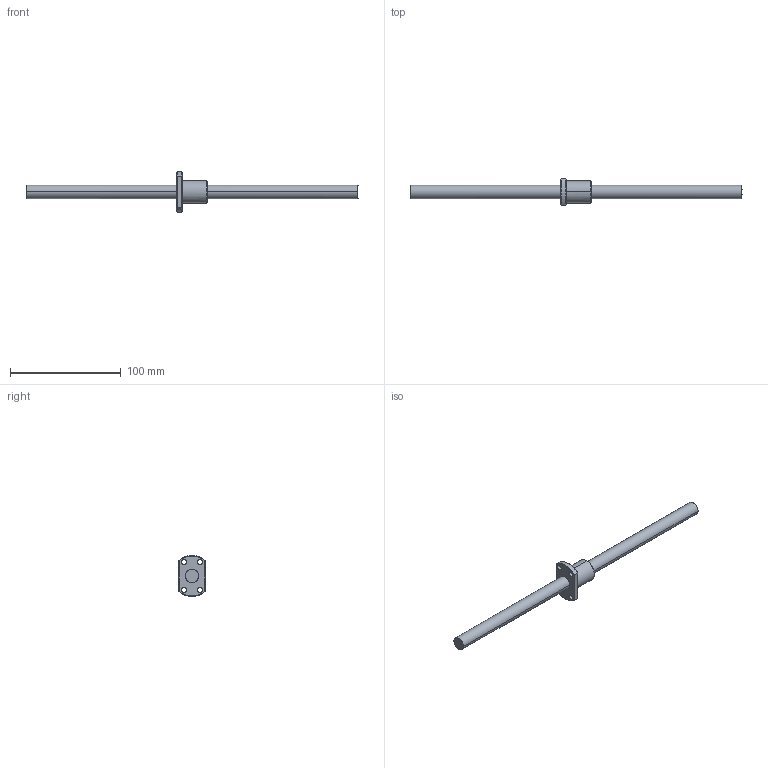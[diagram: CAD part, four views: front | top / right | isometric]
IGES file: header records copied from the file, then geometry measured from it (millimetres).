
Global section: file name: No Iges File Name specified; native system: AutoDesk Inventor R11.0; preprocessor: AutoDesk Inventor Iges Exporter R11.0; author: No Author specified; organization: No Organization specified; date: 20151223.103330; units: millimetre
Bounding box: 300 x 24 x 36.95 mm (x, y, z)
Surface area: 16067.8 mm2 (no closed solid volume)
Topology: 0 solids, 0 shells, 34 faces, 212 edges, 212 vertices
Faces by surface type: bspline 34
